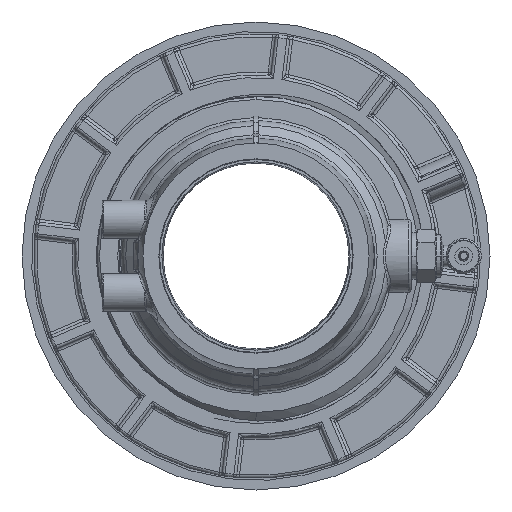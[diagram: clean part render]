
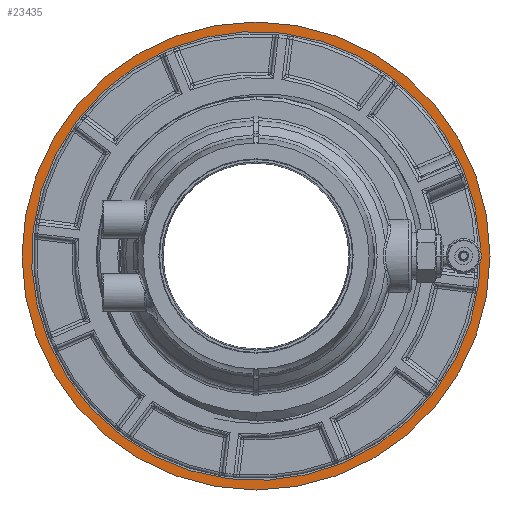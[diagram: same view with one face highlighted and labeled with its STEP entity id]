
A CAD part, front view. The second image highlights one B-rep face of the part: STEP entity #23435.
In plain terms, the highlighted planar face has unit normal (0, -1, 0).
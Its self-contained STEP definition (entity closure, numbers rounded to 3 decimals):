
#10906 = VERTEX_POINT ( 'NONE', #35860 ) ;
#11124 = VERTEX_POINT ( 'NONE', #37350 ) ;
#11129 = EDGE_CURVE ( 'NONE', #10906, #11124, #37351, .T. ) ;
#23024 = VERTEX_POINT ( 'NONE', #25083 ) ;
#23026 = VERTEX_POINT ( 'NONE', #25126 ) ;
#23120 = EDGE_CURVE ( 'NONE', #23024, #23026, #25697, .T. ) ;
#23424 = ORIENTED_EDGE ( 'NONE', *, *, #23437, .F. ) ;
#23435 = ADVANCED_FACE ( 'NONE', ( #26854, #26884 ), #26847, .F. ) ;
#23437 = EDGE_CURVE ( 'NONE', #11124, #10906, #26957, .T. ) ;
#23438 = ORIENTED_EDGE ( 'NONE', *, *, #23451, .T. ) ;
#23441 = EDGE_LOOP ( 'NONE', ( #23424, #23442 ) ) ;
#23442 = ORIENTED_EDGE ( 'NONE', *, *, #11129, .F. ) ;
#23451 = EDGE_CURVE ( 'NONE', #23026, #23024, #26933, .T. ) ;
#23455 = ORIENTED_EDGE ( 'NONE', *, *, #23120, .T. ) ;
#23458 = EDGE_LOOP ( 'NONE', ( #23455, #23438 ) ) ;
#25083 = CARTESIAN_POINT ( 'NONE',  ( -4.151, 52.954, -85.139 ) ) ;
#25126 = CARTESIAN_POINT ( 'NONE',  ( -4.151, 52.954, 74.861 ) ) ;
#25679 = DIRECTION ( 'NONE',  ( 0., 0., -1. ) ) ;
#25680 = DIRECTION ( 'NONE',  ( 0., -1., 0. ) ) ;
#25682 = CARTESIAN_POINT ( 'NONE',  ( -4.151, 52.954, -5.139 ) ) ;
#25684 = AXIS2_PLACEMENT_3D ( 'NONE', #25682, #25680, #25679 ) ;
#25697 = CIRCLE ( 'NONE', #25684, 80. ) ;
#26847 = PLANE ( 'NONE',  #26863 ) ;
#26854 = FACE_OUTER_BOUND ( 'NONE', #23458, .T. ) ;
#26863 = AXIS2_PLACEMENT_3D ( 'NONE', #26966, #26964, #26961 ) ;
#26884 = FACE_BOUND ( 'NONE', #23441, .T. ) ;
#26911 = DIRECTION ( 'NONE',  ( 0., 0., -1. ) ) ;
#26912 = DIRECTION ( 'NONE',  ( 0., -1., 0. ) ) ;
#26913 = CARTESIAN_POINT ( 'NONE',  ( -4.151, 52.954, -5.139 ) ) ;
#26915 = AXIS2_PLACEMENT_3D ( 'NONE', #26913, #26912, #26911 ) ;
#26933 = CIRCLE ( 'NONE', #26915, 80. ) ;
#26950 = DIRECTION ( 'NONE',  ( 0., 0., 1. ) ) ;
#26952 = DIRECTION ( 'NONE',  ( 0., -1., 0. ) ) ;
#26954 = CARTESIAN_POINT ( 'NONE',  ( -4.151, 52.954, -5.139 ) ) ;
#26955 = AXIS2_PLACEMENT_3D ( 'NONE', #26954, #26952, #26950 ) ;
#26957 = CIRCLE ( 'NONE', #26955, 76.75 ) ;
#26961 = DIRECTION ( 'NONE',  ( 0., 0., 1. ) ) ;
#26964 = DIRECTION ( 'NONE',  ( 0., 1., 0. ) ) ;
#26966 = CARTESIAN_POINT ( 'NONE',  ( -84.151, 52.954, -5.139 ) ) ;
#35860 = CARTESIAN_POINT ( 'NONE',  ( 37.827, 52.954, -69.392 ) ) ;
#37330 = DIRECTION ( 'NONE',  ( 0., 0., 1. ) ) ;
#37332 = DIRECTION ( 'NONE',  ( 0., -1., 0. ) ) ;
#37333 = CARTESIAN_POINT ( 'NONE',  ( -4.151, 52.954, -5.139 ) ) ;
#37334 = AXIS2_PLACEMENT_3D ( 'NONE', #37333, #37332, #37330 ) ;
#37350 = CARTESIAN_POINT ( 'NONE',  ( -46.128, 52.954, 59.113 ) ) ;
#37351 = CIRCLE ( 'NONE', #37334, 76.75 ) ;
